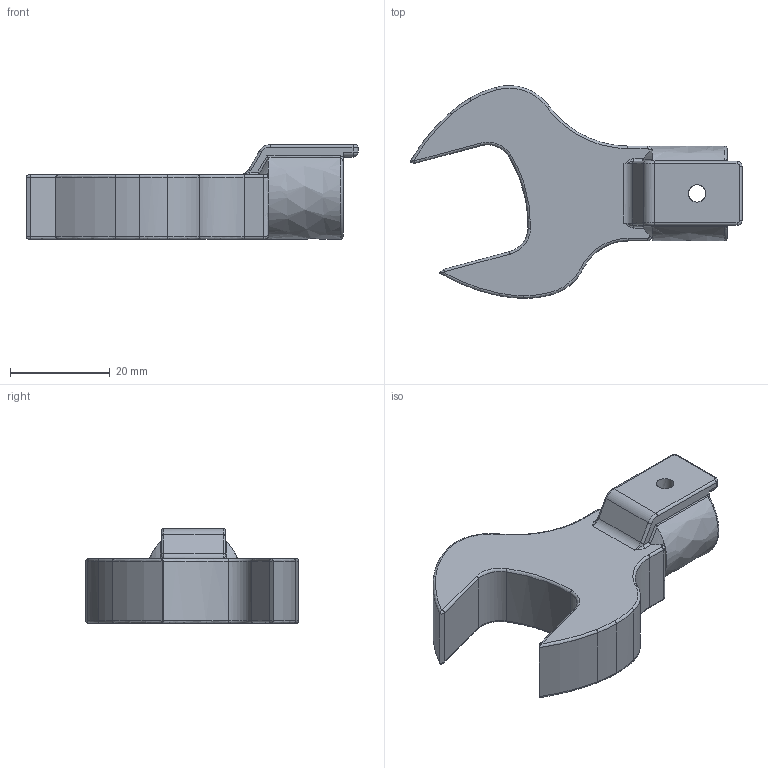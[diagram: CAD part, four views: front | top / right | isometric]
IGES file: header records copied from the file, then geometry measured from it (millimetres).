
Global section: file name: SH12DX22; native system: Autodesk Inventor 2016; preprocessor: unknown; author: Q532; date: 20151029.190654; units: millimetre
Bounding box: 66.5 x 42.59 x 19 mm (x, y, z)
Volume: 16276.8 mm3; surface area: 6078.4 mm2
Topology: 1 solids, 1 shells, 120 faces, 297 edges, 172 vertices
Faces by surface type: bspline 120
